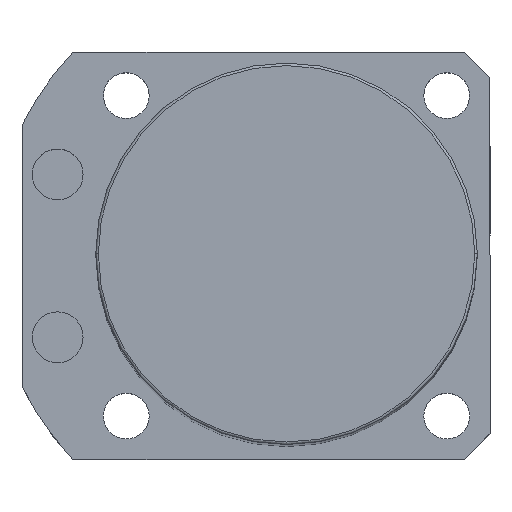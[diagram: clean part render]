
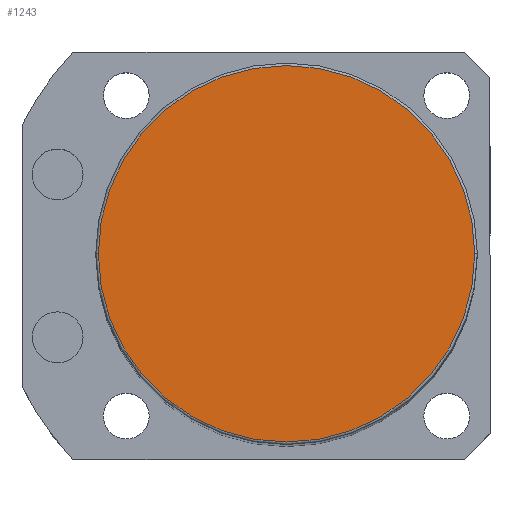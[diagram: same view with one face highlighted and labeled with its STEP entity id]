
A CAD part, top view. The second image highlights one B-rep face of the part: STEP entity #1243.
In plain terms, the highlighted planar face has unit normal (0, 0, 1).
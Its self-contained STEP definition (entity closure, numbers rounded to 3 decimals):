
#228 = DIRECTION ( 'NONE',  ( 1., 0., 0. ) ) ;
#495 = ORIENTED_EDGE ( 'NONE', *, *, #958, .T. ) ;
#542 = ORIENTED_EDGE ( 'NONE', *, *, #552, .T. ) ;
#552 = EDGE_CURVE ( 'NONE', #1308, #956, #595, .T. ) ;
#595 = CIRCLE ( 'NONE', #1712, 37. ) ;
#644 = DIRECTION ( 'NONE',  ( 0., 0., 1. ) ) ;
#851 = AXIS2_PLACEMENT_3D ( 'NONE', #2337, #644, #228 ) ;
#932 = CARTESIAN_POINT ( 'NONE',  ( 37., 0., 245.5 ) ) ;
#947 = FACE_OUTER_BOUND ( 'NONE', #1284, .T. ) ;
#956 = VERTEX_POINT ( 'NONE', #932 ) ;
#958 = EDGE_CURVE ( 'NONE', #956, #1308, #2302, .T. ) ;
#1090 = PLANE ( 'NONE',  #851 ) ;
#1177 = DIRECTION ( 'NONE',  ( 1., 0., 0. ) ) ;
#1243 = ADVANCED_FACE ( 'NONE', ( #947 ), #1090, .T. ) ;
#1284 = EDGE_LOOP ( 'NONE', ( #495, #542 ) ) ;
#1308 = VERTEX_POINT ( 'NONE', #1801 ) ;
#1324 = DIRECTION ( 'NONE',  ( 0., 0., 1. ) ) ;
#1512 = DIRECTION ( 'NONE',  ( 1., 0., 0. ) ) ;
#1712 = AXIS2_PLACEMENT_3D ( 'NONE', #2445, #1324, #1512 ) ;
#1801 = CARTESIAN_POINT ( 'NONE',  ( -37., 0., 245.5 ) ) ;
#1924 = CARTESIAN_POINT ( 'NONE',  ( 0., 0., 245.5 ) ) ;
#2282 = DIRECTION ( 'NONE',  ( 0., 0., 1. ) ) ;
#2302 = CIRCLE ( 'NONE', #2462, 37. ) ;
#2337 = CARTESIAN_POINT ( 'NONE',  ( 0., 0., 245.5 ) ) ;
#2445 = CARTESIAN_POINT ( 'NONE',  ( 0., 0., 245.5 ) ) ;
#2462 = AXIS2_PLACEMENT_3D ( 'NONE', #1924, #2282, #1177 ) ;
